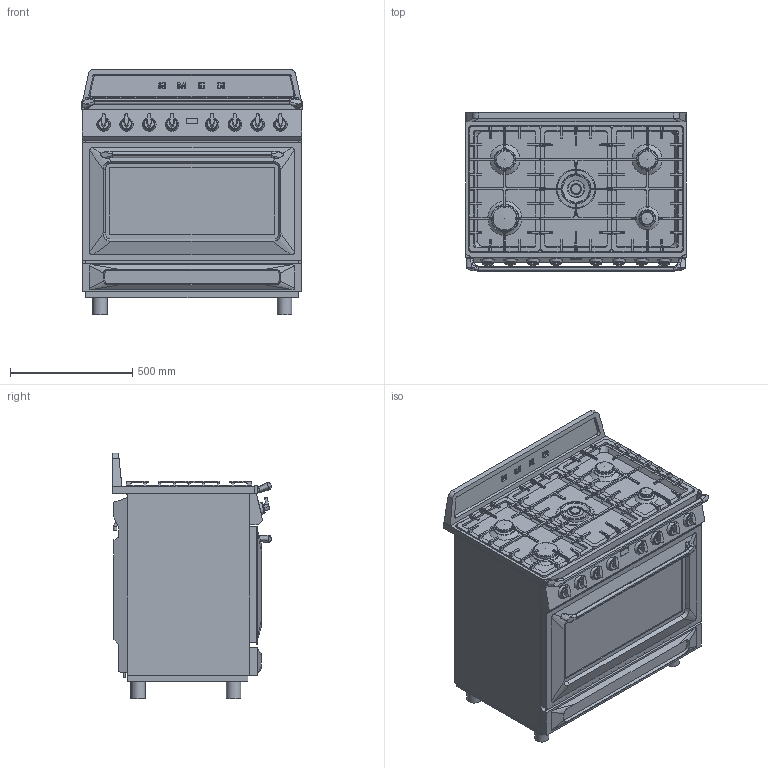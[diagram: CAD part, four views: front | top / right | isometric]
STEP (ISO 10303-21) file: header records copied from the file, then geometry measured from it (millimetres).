
FILE_DESCRIPTION(/* description */ ('Unknown'),/* implementation_level */ '2;1');
FILE_NAME(/* name */ 'TR90GMBL',/* time_stamp */ '2025-04-15T07:55:19+02:00',/* author */ ('Unknown'),/* organization */ ('Unknown'),/* preprocessor_version */ 'ST-DEVELOPER v16.7',/* originating_system */ 'DEX',/* authorisation */ $);
FILE_SCHEMA (('AUTOMOTIVE_DESIGN {1 0 10303 214 3 1 1}'));
Products named in the file (1): TR90GMBL
Bounding box: 902.66 x 649.07 x 1003.32 mm (x, y, z)
Volume: 399427157.4 mm3; surface area: 6040351.5 mm2
Topology: 17 solids, 18 shells, 1390 faces, 3908 edges, 2589 vertices
Faces by surface type: plane 714, cylinder 371, bspline 205, cone 83, torus 14, sphere 3
Full cylindrical faces by diameter (mm): 10 x1, 14 x2, 43.084 x8, 45 x1, 55 x1, 59 x4, 65.5 x1, 66 x1, 70 x1, 75 x2, 85.5 x2, 100 x1, 110.5 x1, 123 x1
Entity records: 66424 total; most frequent: CARTESIAN_POINT 28284, ORIENTED_EDGE 7516, DIRECTION 6219, EDGE_CURVE 3758, VERTEX_POINT 2527, LINE 2171, VECTOR 2171, AXIS2_PLACEMENT_3D 2024
